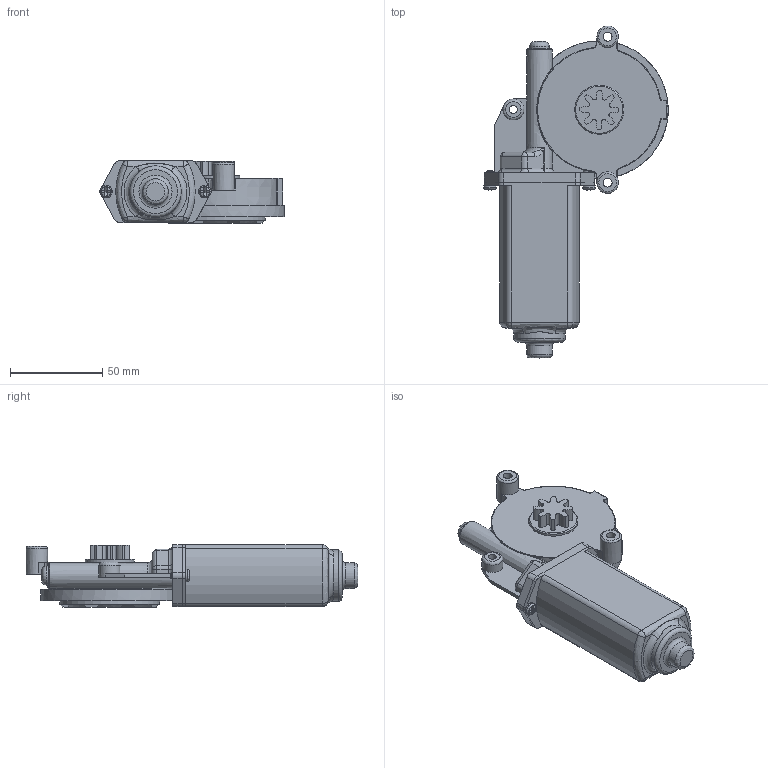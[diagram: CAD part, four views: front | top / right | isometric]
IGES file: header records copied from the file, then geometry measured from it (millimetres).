
Global section: file name: No Iges File Name specified; native system: AutoDesk Inventor R5.0; preprocessor: AutoDesk Inventor Iges Exporter R5.0; author: No Author specified; organization: No Organization specified; date: 20020113.093950; units: inch
Bounding box: 100.27 x 180.34 x 33.91 mm (x, y, z)
Surface area: 40741.7 mm2 (no closed solid volume)
Topology: 0 solids, 0 shells, 307 faces, 1573 edges, 1529 vertices
Faces by surface type: revolution 151, plane 134, bspline 22
